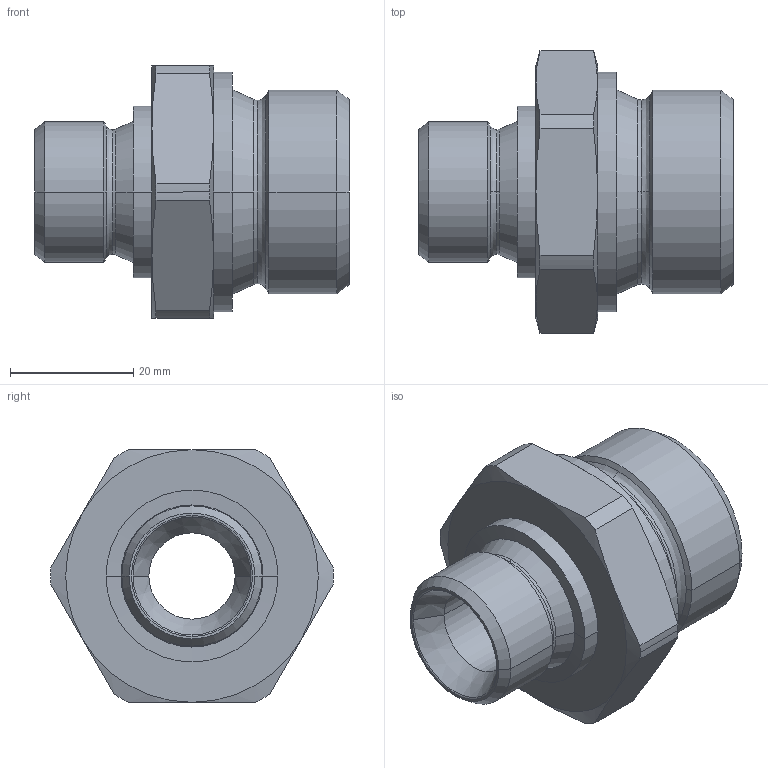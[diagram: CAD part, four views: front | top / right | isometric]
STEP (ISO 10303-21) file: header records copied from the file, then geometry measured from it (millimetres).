
FILE_DESCRIPTION((''),'2;1');
FILE_NAME('300538.stp','2006-09-11T08:17:31',(''),(''),'AutoCAD STEP 2000i','AutoCAD 2000i',', , ');
FILE_SCHEMA(('CONFIG_CONTROL_DESIGN'));
Length unit declared in the file: millimetre
Products named in the file (2): 300538.0; CHIAVE SMUSSATA#0
Assembly tree (1 placements, depth 2):
  300538.0
    CHIAVE SMUSSATA#0
Bounding box: 51 x 45.9 x 41 mm (x, y, z)
Volume: 26430.2 mm3; surface area: 10264.3 mm2
Topology: 1 solids, 1 shells, 76 faces, 178 edges, 106 vertices
Faces by surface type: cone 34, cylinder 20, plane 10, bspline 8, torus 4
Entity records: 2593 total; most frequent: CARTESIAN_POINT 762, DIRECTION 400, ORIENTED_EDGE 356, EDGE_CURVE 178, AXIS2_PLACEMENT_3D 176, VERTEX_POINT 106, CIRCLE 106, EDGE_LOOP 80
